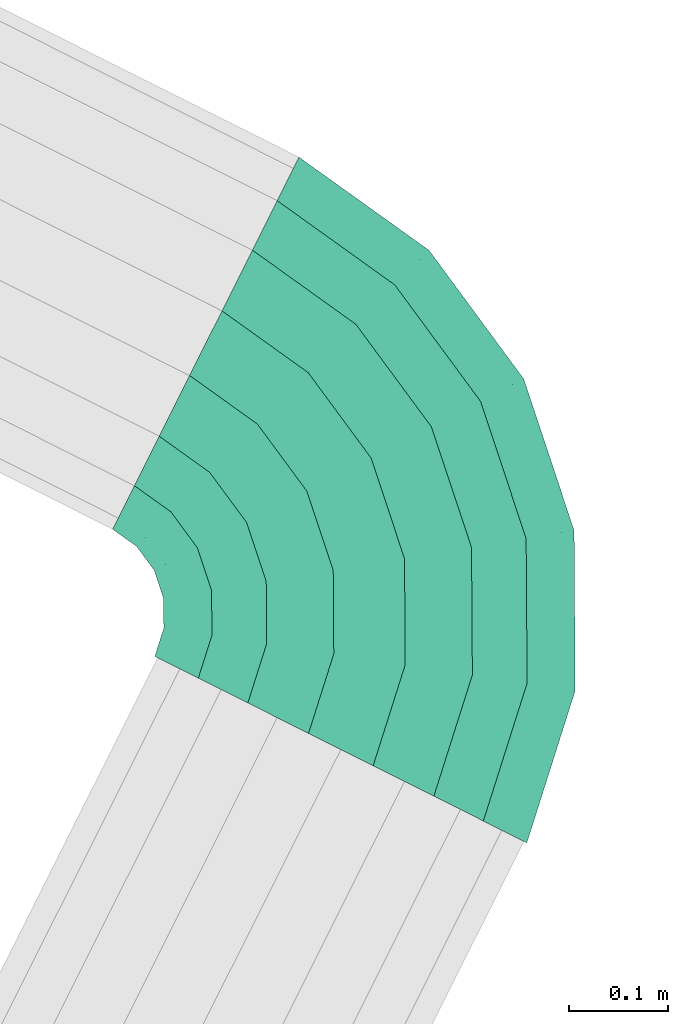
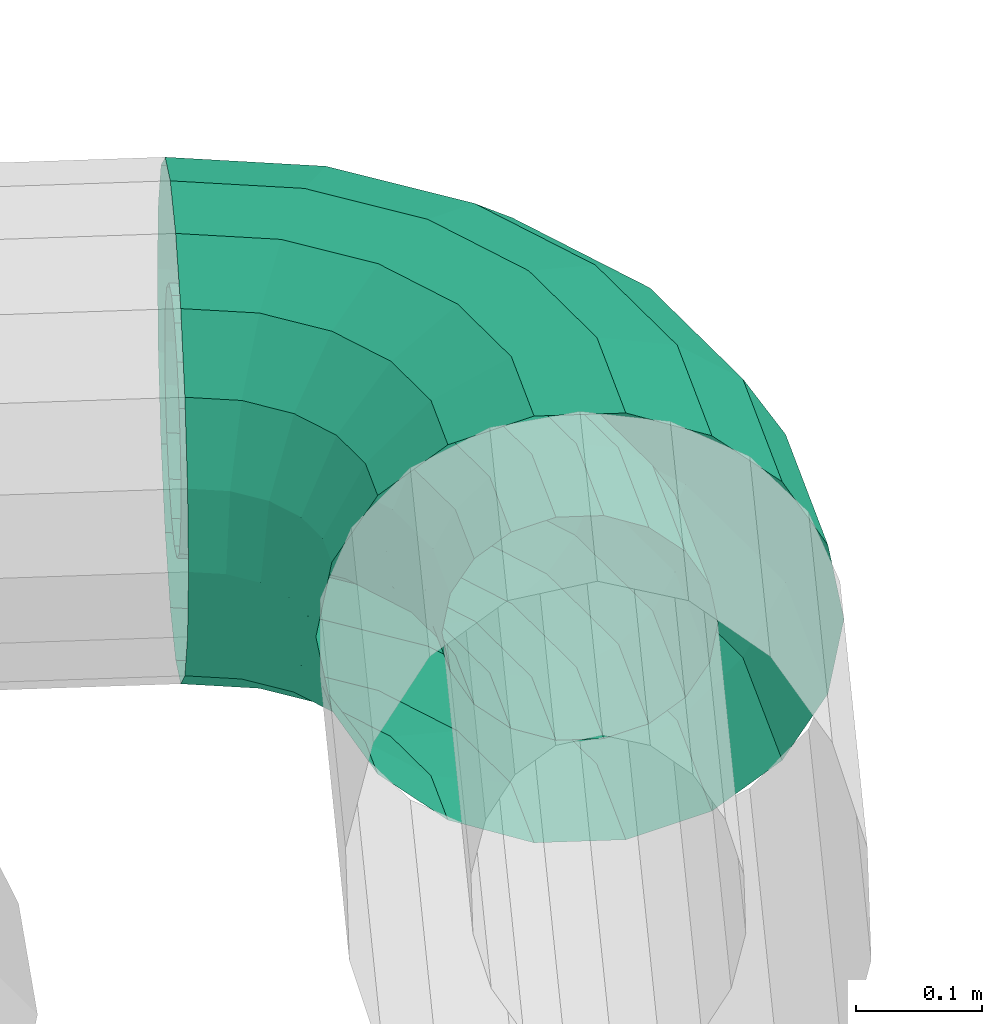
# One storey, part 82 of 152: 1 flow segment.
"""IFC2X3 building model written with IfcOpenShell, lengths in metres."""

from ifc_helpers import new_model, si_unit, derived_unit, direction, frame, origin, place, context, subcontext, project, spatial, face_set, surface_model, source, transform, mapped, material, type_object, type_shapes, element, save


model = new_model("IFC2X3")

# Units and contexts
model_context = context("Model", 3, precision=5.2338327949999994e-05, world=origin(), true_north=direction((0.0, 1.0)))
body_context = subcontext(model_context, "Body", "Model", "MODEL_VIEW")
ifc_project = project(units=[si_unit("LENGTHUNIT", "METRE"), si_unit("AREAUNIT", "SQUARE_METRE"), si_unit("VOLUMEUNIT", "CUBIC_METRE"), si_unit("MASSUNIT", "GRAM", prefix="KILO"), si_unit("PLANEANGLEUNIT", "RADIAN"), derived_unit("THERMALTRANSMITTANCEUNIT", [(si_unit("MASSUNIT", "GRAM", prefix="KILO"), 1), (si_unit("THERMODYNAMICTEMPERATUREUNIT", "KELVIN"), -1), (si_unit("TIMEUNIT", "SECOND"), -3)])], contexts=[model_context])

# Site, building, storey
site_placement = place(None, frame((0.0, 0.0, 0.0), z_axis=(0.0, 0.0, 1.0), x_axis=(0.8939966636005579, -0.4480736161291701, 0.0)))
site = spatial("IfcSite", under=ifc_project, at=site_placement, Name="Default", CompositionType="ELEMENT")
building_placement = place(site_placement, origin())
building = spatial("IfcBuilding", under=site, at=building_placement, CompositionType="ELEMENT")
storey_placement = place(building_placement, frame((0.0, 0.0, 2.7499999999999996)))
storey = spatial("IfcBuildingStorey", under=building, at=storey_placement, Name="1. Obergeschoss", CompositionType="ELEMENT", Elevation=2.7499999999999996)

# Flow segment
ifc_material = material(Name="IfcSurfaceStyle #1741")
distribution_element_type = type_object("IfcDistributionElementType", Name="Rohrbogen 250327:Rohrbogen 250327", material=ifc_material)
shared_shape = source(origin(), body_context, "Body", "SurfaceModel", [
    surface_model("IfcFaceBasedSurfaceModel", [(32.80352236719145, 11.959586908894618, 5.635640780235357), (32.80352236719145, 11.952980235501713, 5.673109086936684), (32.92958378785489, 11.933014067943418, 5.673109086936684), (32.93162536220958, 11.939297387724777, 5.635640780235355), (33.04330543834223, 11.875069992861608, 5.673109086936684), (33.04718874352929, 11.880414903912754, 5.635640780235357), (33.133555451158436, 11.7848199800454, 5.673109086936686), (33.138900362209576, 11.788703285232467, 5.635640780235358), (33.19149952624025, 11.671098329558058, 5.673109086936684), (33.197782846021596, 11.673139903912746, 5.635640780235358), (33.21146569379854, 11.545036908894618, 5.673109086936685), (33.21807236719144, 11.545036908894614, 5.635640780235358), (32.80352236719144, 11.933957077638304, 5.706058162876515), (32.92370530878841, 11.914921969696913, 5.706058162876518), (33.03212390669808, 11.859679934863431, 5.706058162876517), (33.11816539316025, 11.773638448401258, 5.706058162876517), (33.17340742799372, 11.665219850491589, 5.70605816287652), (33.192442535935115, 11.545036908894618, 5.706058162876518), (32.80352236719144, 11.904811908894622, 5.73051386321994), (32.91469895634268, 11.887203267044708, 5.730513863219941), (33.01499280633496, 11.836100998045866, 5.730513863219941), (33.09458645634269, 11.75650734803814, 5.730513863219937), (33.14568872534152, 11.656213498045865, 5.730513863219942), (33.16329736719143, 11.545036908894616, 5.730513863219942), (32.80352236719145, 11.869060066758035, 5.743526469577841), (32.90365102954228, 11.853201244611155, 5.7435264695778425), (32.99397840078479, 11.807177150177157, 5.743526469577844), (33.06566260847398, 11.735492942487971, 5.743526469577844), (33.11168670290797, 11.64516557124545, 5.743526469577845), (33.127545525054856, 11.545036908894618, 5.743526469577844), (32.80352236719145, 11.83101375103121, 5.743526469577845), (32.89189407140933, 11.817017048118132, 5.743526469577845), (32.9716153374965, 11.776397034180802, 5.7435264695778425), (33.03488249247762, 11.71312987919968, 5.743526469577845), (33.07550250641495, 11.633408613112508, 5.743526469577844), (33.08949920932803, 11.545036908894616, 5.743526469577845), (32.80352236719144, 11.795261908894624, 5.730513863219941), (32.88084614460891, 11.783015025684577, 5.730513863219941), (32.950600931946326, 11.747473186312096, 5.730513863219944), (33.00595864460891, 11.692115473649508, 5.730513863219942), (33.041500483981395, 11.62236068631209, 5.730513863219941), (33.05374736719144, 11.54503690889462, 5.730513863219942), (32.80352236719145, 11.766116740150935, 5.706058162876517), (32.87183979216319, 11.755296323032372, 5.706058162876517), (32.93346983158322, 11.723894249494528, 5.706058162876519), (32.982379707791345, 11.674984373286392, 5.706058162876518), (33.01378178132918, 11.613354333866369, 5.7060581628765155), (33.02460219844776, 11.54503690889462, 5.706058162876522), (32.80352236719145, 11.747093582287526, 5.673109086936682), (32.865961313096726, 11.737204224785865, 5.673109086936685), (32.92228829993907, 11.708504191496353, 5.673109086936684), (32.96698964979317, 11.663802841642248, 5.673109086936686), (32.99568968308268, 11.607475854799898, 5.673109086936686), (33.005579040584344, 11.54503690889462, 5.673109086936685), (32.80352236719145, 11.74048690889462, 5.635640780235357), (32.86391973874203, 11.730920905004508, 5.6356407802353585), (32.91840499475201, 11.703159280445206, 5.635640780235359), (32.961644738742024, 11.659919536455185, 5.635640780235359), (32.98940636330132, 11.605434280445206, 5.635640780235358), (32.998972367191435, 11.54503690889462, 5.635640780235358), (32.80352236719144, 11.747093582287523, 5.598172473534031), (32.86596131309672, 11.737204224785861, 5.5981724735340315), (32.922288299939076, 11.708504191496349, 5.5981724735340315), (32.96698964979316, 11.663802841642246, 5.598172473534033), (32.99568968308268, 11.607475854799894, 5.598172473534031), (33.005579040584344, 11.54503690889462, 5.5981724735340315), (32.80352236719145, 11.766116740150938, 5.565223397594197), (32.87183979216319, 11.755296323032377, 5.565223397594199), (32.9334698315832, 11.723894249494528, 5.5652233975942), (32.98237970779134, 11.674984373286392, 5.5652233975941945), (33.01378178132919, 11.613354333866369, 5.5652233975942), (33.02460219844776, 11.54503690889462, 5.565223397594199), (32.80352236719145, 11.795261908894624, 5.540767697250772), (32.88084614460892, 11.783015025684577, 5.5407676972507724), (32.950600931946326, 11.747473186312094, 5.540767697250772), (33.00595864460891, 11.692115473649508, 5.540767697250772), (33.04150048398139, 11.62236068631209, 5.5407676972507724), (33.05374736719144, 11.54503690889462, 5.540767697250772), (32.80352236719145, 11.831013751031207, 5.527755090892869), (32.89189407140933, 11.817017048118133, 5.527755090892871), (32.9716153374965, 11.776397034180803, 5.527755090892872), (33.03488249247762, 11.71312987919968, 5.527755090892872), (33.07550250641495, 11.633408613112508, 5.52775509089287), (33.089499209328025, 11.545036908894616, 5.527755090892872), (32.80352236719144, 11.869060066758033, 5.52775509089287), (32.903651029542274, 11.85320124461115, 5.52775509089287), (32.99397840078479, 11.807177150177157, 5.527755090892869), (33.06566260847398, 11.73549294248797, 5.527755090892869), (33.11168670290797, 11.645165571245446, 5.527755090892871), (33.127545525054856, 11.545036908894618, 5.527755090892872), (32.80352236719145, 11.90481190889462, 5.540767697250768), (32.9146989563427, 11.887203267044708, 5.540767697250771), (33.01499280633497, 11.836100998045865, 5.540767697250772), (33.09458645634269, 11.756507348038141, 5.540767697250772), (33.14568872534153, 11.656213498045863, 5.5407676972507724), (33.16329736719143, 11.545036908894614, 5.540767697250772), (32.80352236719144, 11.933957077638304, 5.565223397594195), (32.92370530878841, 11.914921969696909, 5.565223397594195), (33.03212390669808, 11.859679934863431, 5.565223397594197), (33.11816539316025, 11.773638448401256, 5.565223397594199), (33.17340742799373, 11.665219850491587, 5.5652233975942), (33.192442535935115, 11.545036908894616, 5.565223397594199), (32.80352236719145, 11.952980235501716, 5.59817247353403), (32.92958378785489, 11.93301406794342, 5.598172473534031), (33.04330543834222, 11.875069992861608, 5.5981724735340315), (33.133555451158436, 11.7848199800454, 5.598172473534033), (33.19149952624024, 11.671098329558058, 5.598172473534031), (33.21146569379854, 11.545036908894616, 5.5981724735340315), (32.80352236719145, 12.05958690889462, 5.635640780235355), (32.80352236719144, 12.04694949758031, 5.70731110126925), (32.95862188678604, 12.022384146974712, 5.70731110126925), (32.96252706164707, 12.034403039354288, 5.635640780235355), (33.098539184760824, 11.951092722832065, 5.70731110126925), (33.10596726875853, 11.961316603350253, 5.6356407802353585), (33.20957818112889, 11.840053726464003, 5.707311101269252), (33.21980206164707, 11.84748181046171, 5.635640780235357), (33.28086960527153, 11.700136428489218, 5.7073111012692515), (33.292888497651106, 11.70404160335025, 5.6356407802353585), (33.30543495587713, 11.545036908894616, 5.7073111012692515), (33.318072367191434, 11.545036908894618, 5.635640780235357), (32.80352236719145, 12.010561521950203, 5.770336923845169), (32.94737738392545, 11.987777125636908, 5.77033692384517), (33.07715086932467, 11.921654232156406, 5.77033692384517), (33.180139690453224, 11.818665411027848, 5.770336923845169), (33.24626258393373, 11.68889192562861, 5.77033692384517), (33.26904698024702, 11.545036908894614, 5.770336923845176), (32.80352236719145, 11.954811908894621, 5.817116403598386), (32.93014980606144, 11.93475609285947, 5.817116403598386), (33.04438206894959, 11.876551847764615, 5.817116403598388), (33.135037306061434, 11.785896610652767, 5.817116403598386), (33.19324155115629, 11.67166434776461, 5.817116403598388), (33.21329736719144, 11.545036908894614, 5.817116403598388), (32.80352236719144, 11.886424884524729, 5.842007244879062), (32.909017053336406, 11.869716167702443, 5.842007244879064), (33.004185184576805, 11.821225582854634, 5.842007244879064), (33.07971104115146, 11.745699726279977, 5.842007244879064), (33.12820162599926, 11.650531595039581, 5.842007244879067), (33.14491034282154, 11.545036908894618, 5.842007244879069), (32.80352236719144, 11.813648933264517, 5.842007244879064), (32.886528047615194, 11.800502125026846, 5.842007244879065), (32.961408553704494, 11.762348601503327, 5.842007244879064), (33.020834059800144, 11.702923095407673, 5.842007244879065), (33.05898758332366, 11.62804258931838, 5.842007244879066), (33.072134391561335, 11.54503690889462, 5.842007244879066), (32.80352236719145, 11.74526190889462, 5.817116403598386), (32.86539529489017, 11.735462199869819, 5.817116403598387), (32.9212116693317, 11.707022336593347, 5.817116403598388), (32.965507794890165, 11.662726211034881, 5.817116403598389), (32.99394765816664, 11.606909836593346, 5.817116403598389), (33.003747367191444, 11.54503690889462, 5.817116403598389), (32.803522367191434, 11.68951229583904, 5.770336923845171), (32.84816771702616, 11.682441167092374, 5.770336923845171), (32.88844286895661, 11.66191995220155, 5.770336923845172), (32.92040541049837, 11.629957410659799, 5.770336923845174), (32.94092662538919, 11.589682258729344, 5.770336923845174), (32.94799775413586, 11.54503690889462, 5.770336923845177), (32.80352236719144, 11.653124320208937, 5.707311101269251), (32.83692321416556, 11.647834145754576, 5.707311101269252), (32.86705455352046, 11.632481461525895, 5.707311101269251), (32.890966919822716, 11.608569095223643, 5.707311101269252), (32.90631960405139, 11.578437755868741, 5.7073111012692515), (32.911609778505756, 11.54503690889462, 5.7073111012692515), (32.80352236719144, 11.640486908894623, 5.635640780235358), (32.83301803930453, 11.635815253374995, 5.635640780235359), (32.85962646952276, 11.62225758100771, 5.6356407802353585), (32.88074303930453, 11.601141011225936, 5.635640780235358), (32.89430071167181, 11.574532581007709, 5.635640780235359), (32.89897236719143, 11.545036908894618, 5.635640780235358), (32.80352236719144, 11.653124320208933, 5.563970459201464), (32.83692321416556, 11.647834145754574, 5.563970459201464), (32.86705455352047, 11.632481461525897, 5.563970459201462), (32.89096691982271, 11.608569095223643, 5.563970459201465), (32.90631960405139, 11.578437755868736, 5.563970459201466), (32.911609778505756, 11.54503690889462, 5.563970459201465), (32.80352236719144, 11.68951229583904, 5.500944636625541), (32.848167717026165, 11.68244116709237, 5.500944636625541), (32.88844286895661, 11.661919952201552, 5.500944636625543), (32.92040541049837, 11.629957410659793, 5.500944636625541), (32.94092662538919, 11.589682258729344, 5.500944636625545), (32.94799775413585, 11.545036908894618, 5.500944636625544), (32.80352236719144, 11.74526190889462, 5.454165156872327), (32.86539529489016, 11.735462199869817, 5.454165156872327), (32.9212116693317, 11.707022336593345, 5.4541651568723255), (32.965507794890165, 11.66272621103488, 5.4541651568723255), (32.993947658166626, 11.606909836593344, 5.454165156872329), (33.00374736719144, 11.545036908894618, 5.454165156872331), (32.80352236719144, 11.813648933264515, 5.429274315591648), (32.886528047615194, 11.800502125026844, 5.429274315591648), (32.961408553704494, 11.762348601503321, 5.429274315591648), (33.02083405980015, 11.702923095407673, 5.429274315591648), (33.05898758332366, 11.628042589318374, 5.42927431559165), (33.07213439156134, 11.545036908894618, 5.429274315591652), (32.80352236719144, 11.886424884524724, 5.429274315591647), (32.909017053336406, 11.869716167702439, 5.42927431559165), (33.0041851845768, 11.821225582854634, 5.429274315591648), (33.079711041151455, 11.745699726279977, 5.429274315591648), (33.12820162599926, 11.650531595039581, 5.42927431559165), (33.14491034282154, 11.545036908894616, 5.429274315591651), (32.80352236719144, 11.95481190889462, 5.454165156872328), (32.930149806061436, 11.934756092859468, 5.454165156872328), (33.04438206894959, 11.876551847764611, 5.4541651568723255), (33.135037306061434, 11.785896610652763, 5.454165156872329), (33.193241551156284, 11.671664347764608, 5.454165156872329), (33.21329736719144, 11.54503690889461, 5.454165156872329), (32.80352236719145, 12.010561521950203, 5.50094463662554), (32.94737738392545, 11.98777712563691, 5.500944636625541), (33.077150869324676, 11.921654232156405, 5.500944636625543), (33.18013969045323, 11.818665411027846, 5.50094463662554), (33.24626258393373, 11.68889192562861, 5.50094463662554), (33.269046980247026, 11.54503690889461, 5.5009446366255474), (32.80352236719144, 12.04694949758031, 5.56397045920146), (32.95862188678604, 12.02238414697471, 5.56397045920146), (33.09853918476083, 11.951092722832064, 5.563970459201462), (33.20957818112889, 11.840053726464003, 5.563970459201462), (33.28086960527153, 11.700136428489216, 5.563970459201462), (33.30543495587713, 11.545036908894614, 5.563970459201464)], [face_set([[[0, 1, 2, 3]], [[3, 2, 4, 5]], [[5, 4, 6, 7]], [[7, 6, 8, 9]], [[9, 8, 10, 11]], [[1, 12, 13, 2]], [[2, 13, 14, 4]], [[4, 14, 15, 6]], [[6, 15, 16, 8]], [[8, 16, 17, 10]], [[12, 18, 19, 13]], [[13, 19, 20, 14]], [[14, 20, 21, 15]], [[15, 21, 22, 16]], [[16, 22, 23, 17]], [[18, 24, 25, 19]], [[19, 25, 26, 20]], [[20, 26, 27, 21]], [[21, 27, 28, 22]], [[22, 28, 29, 23]], [[24, 30, 31, 25]], [[25, 31, 32, 26]], [[26, 32, 33, 27]], [[27, 33, 34, 28]], [[28, 34, 35, 29]], [[30, 36, 37, 31]], [[31, 37, 38, 32]], [[32, 38, 39, 33]], [[33, 39, 40, 34]], [[34, 40, 41, 35]], [[36, 42, 43, 37]], [[37, 43, 44, 38]], [[38, 44, 45, 39]], [[39, 45, 46, 40]], [[40, 46, 47, 41]], [[42, 48, 49, 43]], [[43, 49, 50, 44]], [[44, 50, 51, 45]], [[45, 51, 52, 46]], [[46, 52, 53, 47]], [[48, 54, 55, 49]], [[49, 55, 56, 50]], [[50, 56, 57, 51]], [[51, 57, 58, 52]], [[52, 58, 59, 53]], [[54, 60, 61, 55]], [[55, 61, 62, 56]], [[56, 62, 63, 57]], [[57, 63, 64, 58]], [[58, 64, 65, 59]], [[60, 66, 67, 61]], [[61, 67, 68, 62]], [[62, 68, 69, 63]], [[63, 69, 70, 64]], [[64, 70, 71, 65]], [[66, 72, 73, 67]], [[67, 73, 74, 68]], [[68, 74, 75, 69]], [[69, 75, 76, 70]], [[70, 76, 77, 71]], [[72, 78, 79, 73]], [[73, 79, 80, 74]], [[74, 80, 81, 75]], [[75, 81, 82, 76]], [[76, 82, 83, 77]], [[78, 84, 85, 79]], [[79, 85, 86, 80]], [[80, 86, 87, 81]], [[81, 87, 88, 82]], [[82, 88, 89, 83]], [[84, 90, 91, 85]], [[85, 91, 92, 86]], [[86, 92, 93, 87]], [[87, 93, 94, 88]], [[88, 94, 95, 89]], [[90, 96, 97, 91]], [[91, 97, 98, 92]], [[92, 98, 99, 93]], [[93, 99, 100, 94]], [[94, 100, 101, 95]], [[96, 102, 103, 97]], [[97, 103, 104, 98]], [[98, 104, 105, 99]], [[99, 105, 106, 100]], [[100, 106, 107, 101]], [[102, 0, 3, 103]], [[103, 3, 5, 104]], [[104, 5, 7, 105]], [[105, 7, 9, 106]], [[106, 9, 11, 107]], [[108, 109, 110, 111]], [[111, 110, 112, 113]], [[113, 112, 114, 115]], [[115, 114, 116, 117]], [[117, 116, 118, 119]], [[109, 120, 121, 110]], [[110, 121, 122, 112]], [[112, 122, 123, 114]], [[114, 123, 124, 116]], [[116, 124, 125, 118]], [[120, 126, 127, 121]], [[121, 127, 128, 122]], [[122, 128, 129, 123]], [[123, 129, 130, 124]], [[124, 130, 131, 125]], [[126, 132, 133, 127]], [[127, 133, 134, 128]], [[128, 134, 135, 129]], [[129, 135, 136, 130]], [[130, 136, 137, 131]], [[132, 138, 139, 133]], [[133, 139, 140, 134]], [[134, 140, 141, 135]], [[135, 141, 142, 136]], [[136, 142, 143, 137]], [[138, 144, 145, 139]], [[139, 145, 146, 140]], [[140, 146, 147, 141]], [[141, 147, 148, 142]], [[142, 148, 149, 143]], [[144, 150, 151, 145]], [[145, 151, 152, 146]], [[146, 152, 153, 147]], [[147, 153, 154, 148]], [[148, 154, 155, 149]], [[150, 156, 157, 151]], [[151, 157, 158, 152]], [[152, 158, 159, 153]], [[153, 159, 160, 154]], [[154, 160, 161, 155]], [[156, 162, 163, 157]], [[157, 163, 164, 158]], [[158, 164, 165, 159]], [[159, 165, 166, 160]], [[160, 166, 167, 161]], [[162, 168, 169, 163]], [[163, 169, 170, 164]], [[164, 170, 171, 165]], [[165, 171, 172, 166]], [[166, 172, 173, 167]], [[168, 174, 175, 169]], [[169, 175, 176, 170]], [[170, 176, 177, 171]], [[171, 177, 178, 172]], [[172, 178, 179, 173]], [[174, 180, 181, 175]], [[175, 181, 182, 176]], [[176, 182, 183, 177]], [[177, 183, 184, 178]], [[178, 184, 185, 179]], [[180, 186, 187, 181]], [[181, 187, 188, 182]], [[182, 188, 189, 183]], [[183, 189, 190, 184]], [[184, 190, 191, 185]], [[186, 192, 193, 187]], [[187, 193, 194, 188]], [[188, 194, 195, 189]], [[189, 195, 196, 190]], [[190, 196, 197, 191]], [[192, 198, 199, 193]], [[193, 199, 200, 194]], [[194, 200, 201, 195]], [[195, 201, 202, 196]], [[196, 202, 203, 197]], [[198, 204, 205, 199]], [[199, 205, 206, 200]], [[200, 206, 207, 201]], [[201, 207, 208, 202]], [[202, 208, 209, 203]], [[204, 210, 211, 205]], [[205, 211, 212, 206]], [[206, 212, 213, 207]], [[207, 213, 214, 208]], [[208, 214, 215, 209]], [[210, 108, 111, 211]], [[211, 111, 113, 212]], [[212, 113, 115, 213]], [[213, 115, 117, 214]], [[214, 117, 119, 215]]])]),
])
type_shapes(distribution_element_type, [shared_shape])
flow_segment_placement = place(storey_placement, frame((0.0, 0.0, -2.7499999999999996)))
element("IfcFlowSegment", 1, at=flow_segment_placement, inside=storey, type_object=distribution_element_type, material=ifc_material, Name="Rohrbogen", ObjectType="Rohrbogen", context=body_context, shape_type="MappedRepresentation", body=[
    mapped(shared_shape, transform((0.0, 0.0, 0.0), scale=1.0)),
])

save(model, "model.ifc")
